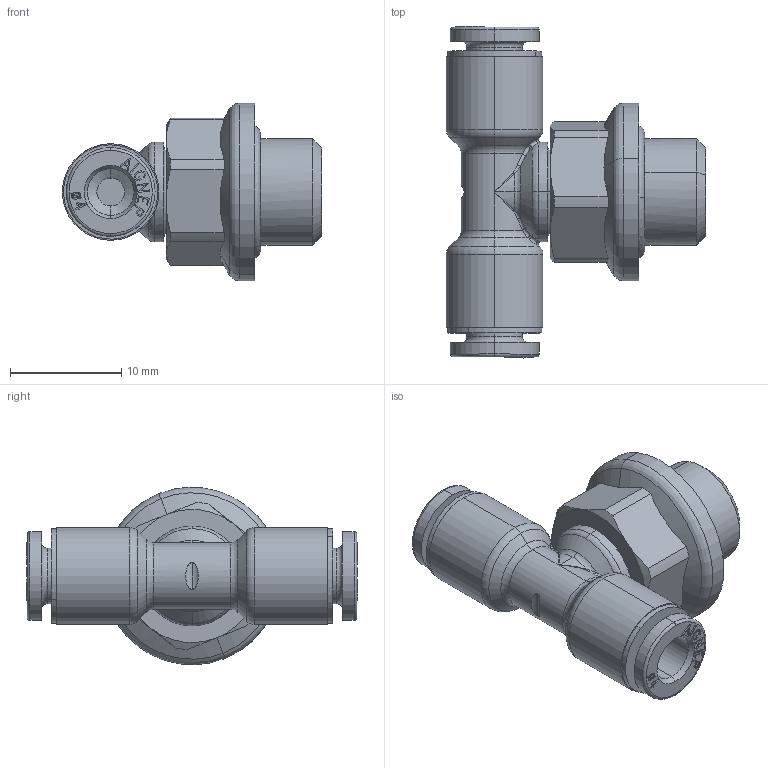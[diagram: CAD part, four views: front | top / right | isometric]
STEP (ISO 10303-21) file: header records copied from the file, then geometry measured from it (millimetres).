
FILE_DESCRIPTION (( 'STEP AP214' ), '1' );
FILE_NAME ('5421600004A.STEP', '2024-09-20T08:48:58', ( '' ), ( '' ), 'SwSTEP 2.0', 'SolidWorks 2020', '' );
FILE_SCHEMA (( 'AUTOMOTIVE_DESIGN' ));
Length unit declared in the file: millimetre
Products named in the file (1): 5421600004A
Bounding box: 23.35 x 29.9 x 15.99 mm (x, y, z)
Volume: 2799.8 mm3; surface area: 2172.2 mm2
Topology: 1 solids, 3 shells, 543 faces, 1424 edges, 921 vertices
Faces by surface type: plane 292, bspline 150, cylinder 46, torus 30, cone 25
Entity records: 24850 total; most frequent: CARTESIAN_POINT 6535, ORIENTED_EDGE 2840, DIRECTION 2061, EDGE_CURVE 1420, VERTEX_POINT 921, VECTOR 919, LINE 919, EDGE_LOOP 581
